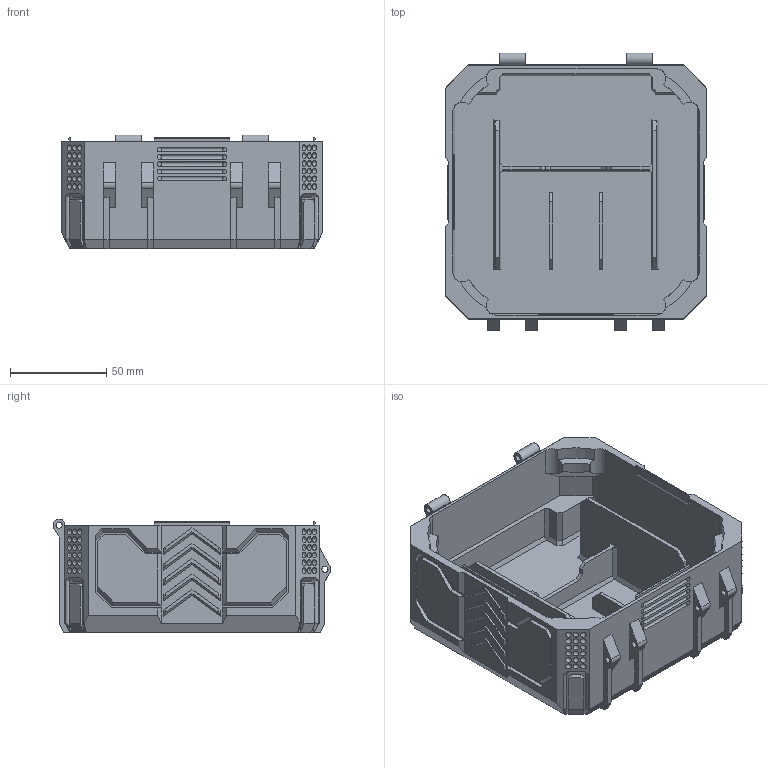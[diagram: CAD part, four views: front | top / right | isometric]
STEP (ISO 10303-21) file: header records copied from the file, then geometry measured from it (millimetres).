
FILE_DESCRIPTION(/* description */ (''),/* implementation_level */ '2;1');
FILE_NAME(/* name */ 'Pavo20BaseSlim V2.step',/* time_stamp */ '2024-05-04T13:48:13+08:00',/* author */ (''),/* organization */ (''),/* preprocessor_version */ 'ST-DEVELOPER v20',/* originating_system */ 'Autodesk Translation Framework v12.20.1.177',/* authorisation */ '');
FILE_SCHEMA (('AUTOMOTIVE_DESIGN { 1 0 10303 214 3 1 1 }'));
Length unit declared in the file: millimetre
Products named in the file (1): Pavo20BaseSlim V2
Bounding box: 136 x 144.4 x 59.1 mm (x, y, z)
Volume: 153561.1 mm3; surface area: 114700 mm2
Topology: 5 solids, 5 shells, 566 faces, 1574 edges, 1046 vertices
Faces by surface type: plane 421, sphere 72, cylinder 53, bspline 20
Full cylindrical faces by diameter (mm): 3.2 x6
Entity records: 19508 total; most frequent: CARTESIAN_POINT 5126, ORIENTED_EDGE 3004, DIRECTION 2802, EDGE_CURVE 1502, LINE 1176, VECTOR 1176, VERTEX_POINT 1046, AXIS2_PLACEMENT_3D 813
